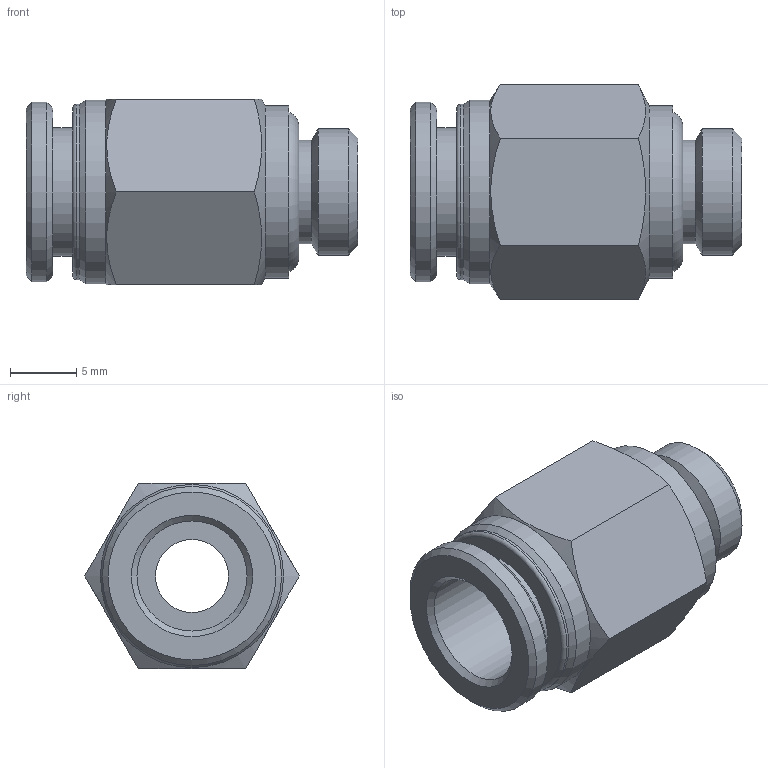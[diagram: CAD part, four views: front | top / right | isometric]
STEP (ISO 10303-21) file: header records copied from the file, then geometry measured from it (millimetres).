
FILE_DESCRIPTION(/* description */ ('STEP AP203'),/* implementation_level */ '2;1');
FILE_NAME(/* name */ 'PCS08-G01',/* time_stamp */ '2024-07-10T08:30:43+02:00',/* author */ ('License CC BY-ND 4.0'),/* organization */ ('CADENAS'),/* preprocessor_version */ 'ST-DEVELOPER v19.3',/* originating_system */ 'PARTsolutions',/* authorisation */ ' ');
FILE_SCHEMA (('CONFIG_CONTROL_DESIGN'));
Length unit declared in the file: millimetre
Products named in the file (1): PCS08-G01
Bounding box: 25 x 16.17 x 14 mm (x, y, z)
Volume: 2268.1 mm3; surface area: 2006 mm2
Topology: 1 solids, 1 shells, 33 faces, 66 edges, 40 vertices
Faces by surface type: plane 13, cone 9, cylinder 9, torus 2
Full cylindrical faces by diameter (mm): 5.5 x1, 7.8 x1, 8.3 x1, 9.5 x1, 9.7 x1, 13 x1, 13.2 x1, 13.5 x1, 13.8 x1
Entity records: 794 total; most frequent: CARTESIAN_POINT 168, DIRECTION 126, ORIENTED_EDGE 88, EDGE_LOOP 60, FACE_BOUND 60, AXIS2_PLACEMENT_3D 60, EDGE_CURVE 44, VERTEX_POINT 38
